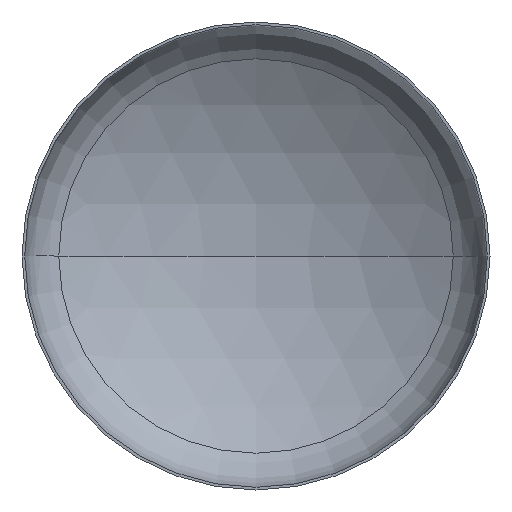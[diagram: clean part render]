
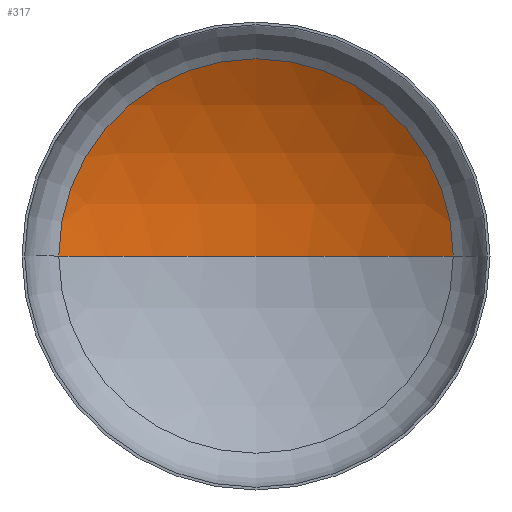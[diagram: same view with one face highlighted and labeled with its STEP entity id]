
A CAD part, front view. The second image highlights one B-rep face of the part: STEP entity #317.
In plain terms, the highlighted spherical face has radius 3040 mm.
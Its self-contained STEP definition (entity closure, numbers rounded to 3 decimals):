
#4 = DIRECTION ( 'NONE',  ( -1., 0., 0. ) ) ;
#12 = DIRECTION ( 'NONE',  ( 0., 0., -1. ) ) ;
#14 = EDGE_LOOP ( 'NONE', ( #33, #59, #28 ) ) ;
#15 = CARTESIAN_POINT ( 'NONE',  ( 0., -2016.906, 0. ) ) ;
#28 = ORIENTED_EDGE ( 'NONE', *, *, #173, .T. ) ;
#30 = VERTEX_POINT ( 'NONE', #274 ) ;
#33 = ORIENTED_EDGE ( 'NONE', *, *, #230, .F. ) ;
#35 = VERTEX_POINT ( 'NONE', #272 ) ;
#51 = VERTEX_POINT ( 'NONE', #196 ) ;
#59 = ORIENTED_EDGE ( 'NONE', *, *, #212, .T. ) ;
#134 = CARTESIAN_POINT ( 'NONE',  ( 0., -2016.906, 0. ) ) ;
#135 = DIRECTION ( 'NONE',  ( 0., 0., -1. ) ) ;
#144 = CIRCLE ( 'NONE', #296, 3040. ) ;
#158 = AXIS2_PLACEMENT_3D ( 'NONE', #134, #135, #302 ) ;
#164 = CIRCLE ( 'NONE', #205, 1601.108 ) ;
#173 = EDGE_CURVE ( 'NONE', #51, #30, #164, .T. ) ;
#178 = CARTESIAN_POINT ( 'NONE',  ( 0., 567.287, 0. ) ) ;
#193 = CARTESIAN_POINT ( 'NONE',  ( 0., -2016.906, 0. ) ) ;
#196 = CARTESIAN_POINT ( 'NONE',  ( 1601.108, 567.287, 0. ) ) ;
#205 = AXIS2_PLACEMENT_3D ( 'NONE', #178, #295, #294 ) ;
#212 = EDGE_CURVE ( 'NONE', #35, #51, #220, .T. ) ;
#220 = CIRCLE ( 'NONE', #223, 3040. ) ;
#223 = AXIS2_PLACEMENT_3D ( 'NONE', #15, #12, #4 ) ;
#230 = EDGE_CURVE ( 'NONE', #35, #30, #144, .T. ) ;
#272 = CARTESIAN_POINT ( 'NONE',  ( 0., 1023.094, 0. ) ) ;
#274 = CARTESIAN_POINT ( 'NONE',  ( -1601.108, 567.287, 0. ) ) ;
#294 = DIRECTION ( 'NONE',  ( 1., 0., 0. ) ) ;
#295 = DIRECTION ( 'NONE',  ( 0., -1., 0. ) ) ;
#296 = AXIS2_PLACEMENT_3D ( 'NONE', #193, #352, #372 ) ;
#302 = DIRECTION ( 'NONE',  ( -1., 0., 0. ) ) ;
#317 = ADVANCED_FACE ( 'NONE', ( #398 ), #341, .F. ) ;
#341 = SPHERICAL_SURFACE ( 'NONE', #158, 3040. ) ;
#352 = DIRECTION ( 'NONE',  ( 0., 0., 1. ) ) ;
#372 = DIRECTION ( 'NONE',  ( 1., 0., 0. ) ) ;
#398 = FACE_OUTER_BOUND ( 'NONE', #14, .T. ) ;
